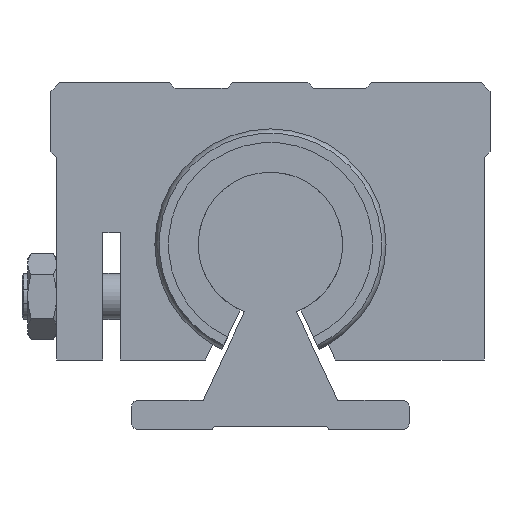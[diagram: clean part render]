
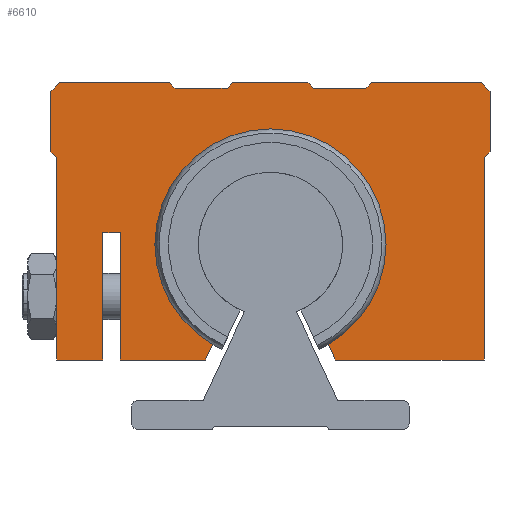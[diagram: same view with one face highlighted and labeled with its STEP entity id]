
A CAD part, left-side view. The second image highlights one B-rep face of the part: STEP entity #6610.
In plain terms, the highlighted planar face has unit normal (-1, 0, 0).
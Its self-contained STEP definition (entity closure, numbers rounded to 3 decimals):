
#5363=CARTESIAN_POINT('',(267.205,-10.,14.679));
#5364=VERTEX_POINT('',#5363);
#5371=CARTESIAN_POINT('',(267.205,10.,14.679));
#5372=VERTEX_POINT('',#5371);
#5373=CARTESIAN_POINT('',(267.205,0.,32.0));
#5374=DIRECTION('',(-1.0,0.0,0.0));
#5375=DIRECTION('',(0.0,-1.0,0.0));
#5376=AXIS2_PLACEMENT_3D('',#5373,#5374,#5375);
#5377=CIRCLE('',#5376,20.0);
#5378=EDGE_CURVE('',#5364,#5372,#5377,.T.);
#5470=CARTESIAN_POINT('',(267.205,-6.5,60.0));
#5471=VERTEX_POINT('',#5470);
#5472=CARTESIAN_POINT('',(267.205,-7.5,59.));
#5473=VERTEX_POINT('',#5472);
#5474=CARTESIAN_POINT('',(267.205,-6.5,60.0));
#5475=DIRECTION('',(0.0,-0.707,-0.707));
#5476=VECTOR('',#5475,1.414);
#5477=LINE('',#5474,#5476);
#5478=EDGE_CURVE('',#5471,#5473,#5477,.T.);
#5511=CARTESIAN_POINT('',(267.205,-16.5,59.));
#5512=VERTEX_POINT('',#5511);
#5513=CARTESIAN_POINT('',(267.205,-7.5,59.));
#5514=DIRECTION('',(0.0,-1.0,0.0));
#5515=VECTOR('',#5514,9.);
#5516=LINE('',#5513,#5515);
#5517=EDGE_CURVE('',#5473,#5512,#5516,.T.);
#5541=CARTESIAN_POINT('',(267.205,17.5,60.0));
#5542=VERTEX_POINT('',#5541);
#5543=CARTESIAN_POINT('',(267.205,16.5,59.));
#5544=VERTEX_POINT('',#5543);
#5545=CARTESIAN_POINT('',(267.205,17.5,60.0));
#5546=DIRECTION('',(0.0,-0.707,-0.707));
#5547=VECTOR('',#5546,1.414);
#5548=LINE('',#5545,#5547);
#5549=EDGE_CURVE('',#5542,#5544,#5548,.T.);
#5582=CARTESIAN_POINT('',(267.205,7.5,59.));
#5583=VERTEX_POINT('',#5582);
#5584=CARTESIAN_POINT('',(267.205,16.5,59.));
#5585=DIRECTION('',(0.0,-1.0,0.0));
#5586=VECTOR('',#5585,9.);
#5587=LINE('',#5584,#5586);
#5588=EDGE_CURVE('',#5544,#5583,#5587,.T.);
#5612=CARTESIAN_POINT('',(267.205,6.5,60.0));
#5613=VERTEX_POINT('',#5612);
#5614=CARTESIAN_POINT('',(267.205,7.5,59.));
#5615=DIRECTION('',(0.0,-0.707,0.707));
#5616=VECTOR('',#5615,1.414);
#5617=LINE('',#5614,#5616);
#5618=EDGE_CURVE('',#5583,#5613,#5617,.T.);
#5643=CARTESIAN_POINT('',(267.205,-17.5,60.0));
#5644=VERTEX_POINT('',#5643);
#5645=CARTESIAN_POINT('',(267.205,-16.5,59.));
#5646=DIRECTION('',(0.0,-0.707,0.707));
#5647=VECTOR('',#5646,1.414);
#5648=LINE('',#5645,#5647);
#5649=EDGE_CURVE('',#5512,#5644,#5648,.T.);
#5674=CARTESIAN_POINT('',(267.205,37.0,47.0));
#5675=VERTEX_POINT('',#5674);
#5676=CARTESIAN_POINT('',(267.205,38.0,48.));
#5677=VERTEX_POINT('',#5676);
#5678=CARTESIAN_POINT('',(267.205,37.0,47.0));
#5679=DIRECTION('',(0.0,0.707,0.707));
#5680=VECTOR('',#5679,1.414);
#5681=LINE('',#5678,#5680);
#5682=EDGE_CURVE('',#5675,#5677,#5681,.T.);
#5714=CARTESIAN_POINT('',(267.205,-38.0,48.));
#5715=VERTEX_POINT('',#5714);
#5716=CARTESIAN_POINT('',(267.205,-37.0,47.0));
#5717=VERTEX_POINT('',#5716);
#5718=CARTESIAN_POINT('',(267.205,-38.0,48.));
#5719=DIRECTION('',(0.0,0.707,-0.707));
#5720=VECTOR('',#5719,1.414);
#5721=LINE('',#5718,#5720);
#5722=EDGE_CURVE('',#5715,#5717,#5721,.T.);
#5755=CARTESIAN_POINT('',(267.205,-37.,12.));
#5756=VERTEX_POINT('',#5755);
#5757=CARTESIAN_POINT('',(267.205,-37.0,47.0));
#5758=DIRECTION('',(0.0,0.0,-1.0));
#5759=VECTOR('',#5758,35.);
#5760=LINE('',#5757,#5759);
#5761=EDGE_CURVE('',#5717,#5756,#5760,.T.);
#5795=CARTESIAN_POINT('',(267.205,38.0,58.5));
#5796=VERTEX_POINT('',#5795);
#5803=CARTESIAN_POINT('',(267.205,36.5,60.0));
#5804=VERTEX_POINT('',#5803);
#5805=CARTESIAN_POINT('',(267.205,38.0,58.5));
#5806=DIRECTION('',(0.0,-0.707,0.707));
#5807=VECTOR('',#5806,2.121);
#5808=LINE('',#5805,#5807);
#5809=EDGE_CURVE('',#5796,#5804,#5808,.T.);
#5833=CARTESIAN_POINT('',(267.205,38.0,48.));
#5834=DIRECTION('',(0.0,0.0,1.0));
#5835=VECTOR('',#5834,10.5);
#5836=LINE('',#5833,#5835);
#5837=EDGE_CURVE('',#5677,#5796,#5836,.T.);
#5970=CARTESIAN_POINT('',(267.205,-36.5,60.0));
#5971=VERTEX_POINT('',#5970);
#5978=CARTESIAN_POINT('',(267.205,-38.0,58.5));
#5979=VERTEX_POINT('',#5978);
#5980=CARTESIAN_POINT('',(267.205,-36.5,60.0));
#5981=DIRECTION('',(0.0,-0.707,-0.707));
#5982=VECTOR('',#5981,2.121);
#5983=LINE('',#5980,#5982);
#5984=EDGE_CURVE('',#5971,#5979,#5983,.T.);
#6003=CARTESIAN_POINT('',(267.205,-17.5,60.0));
#6004=DIRECTION('',(0.0,-1.0,0.0));
#6005=VECTOR('',#6004,19.);
#6006=LINE('',#6003,#6005);
#6007=EDGE_CURVE('',#5644,#5971,#6006,.T.);
#6341=CARTESIAN_POINT('',(267.205,37.0,12.));
#6342=VERTEX_POINT('',#6341);
#6349=CARTESIAN_POINT('',(267.205,37.0,12.));
#6350=DIRECTION('',(0.0,0.0,1.0));
#6351=VECTOR('',#6350,35.);
#6352=LINE('',#6349,#6351);
#6353=EDGE_CURVE('',#6342,#5675,#6352,.T.);
#6372=CARTESIAN_POINT('',(267.205,29.,12.));
#6373=VERTEX_POINT('',#6372);
#6380=CARTESIAN_POINT('',(267.205,29.,12.));
#6381=DIRECTION('',(0.0,1.0,0.0));
#6382=VECTOR('',#6381,8.);
#6383=LINE('',#6380,#6382);
#6384=EDGE_CURVE('',#6373,#6342,#6383,.T.);
#6396=CARTESIAN_POINT('',(267.205,29.,34.));
#6397=VERTEX_POINT('',#6396);
#6404=CARTESIAN_POINT('',(267.205,29.,34.));
#6405=DIRECTION('',(0.0,0.0,-1.0));
#6406=VECTOR('',#6405,22.);
#6407=LINE('',#6404,#6406);
#6408=EDGE_CURVE('',#6397,#6373,#6407,.T.);
#6423=CARTESIAN_POINT('',(267.205,26.,34.));
#6424=VERTEX_POINT('',#6423);
#6431=CARTESIAN_POINT('',(267.205,26.,34.));
#6432=DIRECTION('',(0.0,1.0,0.0));
#6433=VECTOR('',#6432,3.);
#6434=LINE('',#6431,#6433);
#6435=EDGE_CURVE('',#6424,#6397,#6434,.T.);
#6447=CARTESIAN_POINT('',(267.205,26.,12.));
#6448=VERTEX_POINT('',#6447);
#6455=CARTESIAN_POINT('',(267.205,26.,12.));
#6456=DIRECTION('',(0.0,0.0,1.0));
#6457=VECTOR('',#6456,22.);
#6458=LINE('',#6455,#6457);
#6459=EDGE_CURVE('',#6448,#6424,#6458,.T.);
#6474=CARTESIAN_POINT('',(267.205,11.249,12.));
#6475=VERTEX_POINT('',#6474);
#6482=CARTESIAN_POINT('',(267.205,11.249,12.));
#6483=DIRECTION('',(0.0,1.0,0.0));
#6484=VECTOR('',#6483,14.751);
#6485=LINE('',#6482,#6484);
#6486=EDGE_CURVE('',#6475,#6448,#6485,.T.);
#6505=CARTESIAN_POINT('',(267.205,10.,14.679));
#6506=DIRECTION('',(0.0,0.423,-0.906));
#6507=VECTOR('',#6506,2.956);
#6508=LINE('',#6505,#6507);
#6509=EDGE_CURVE('',#5372,#6475,#6508,.T.);
#6521=CARTESIAN_POINT('',(267.205,-11.249,12.));
#6522=VERTEX_POINT('',#6521);
#6529=CARTESIAN_POINT('',(267.205,-11.249,12.));
#6530=DIRECTION('',(0.0,0.423,0.906));
#6531=VECTOR('',#6530,2.956);
#6532=LINE('',#6529,#6531);
#6533=EDGE_CURVE('',#6522,#5364,#6532,.T.);
#6552=CARTESIAN_POINT('',(267.205,-37.,12.));
#6553=DIRECTION('',(0.0,1.0,0.0));
#6554=VECTOR('',#6553,25.751);
#6555=LINE('',#6552,#6554);
#6556=EDGE_CURVE('',#5756,#6522,#6555,.T.);
#6562=CARTESIAN_POINT('',(267.205,3.2,34.996));
#6563=DIRECTION('',(1.0,0.0,0.0));
#6564=DIRECTION('',(0.0,0.0,-1.0));
#6565=AXIS2_PLACEMENT_3D('',#6562,#6563,#6564);
#6566=PLANE('',#6565);
#6567=ORIENTED_EDGE('',*,*,#5809,.F.);
#6568=ORIENTED_EDGE('',*,*,#5837,.F.);
#6569=ORIENTED_EDGE('',*,*,#5682,.F.);
#6570=ORIENTED_EDGE('',*,*,#6353,.F.);
#6571=ORIENTED_EDGE('',*,*,#6384,.F.);
#6572=ORIENTED_EDGE('',*,*,#6408,.F.);
#6573=ORIENTED_EDGE('',*,*,#6435,.F.);
#6574=ORIENTED_EDGE('',*,*,#6459,.F.);
#6575=ORIENTED_EDGE('',*,*,#6486,.F.);
#6576=ORIENTED_EDGE('',*,*,#6509,.F.);
#6577=ORIENTED_EDGE('',*,*,#5378,.F.);
#6578=ORIENTED_EDGE('',*,*,#6533,.F.);
#6579=ORIENTED_EDGE('',*,*,#6556,.F.);
#6580=ORIENTED_EDGE('',*,*,#5761,.F.);
#6581=ORIENTED_EDGE('',*,*,#5722,.F.);
#6582=CARTESIAN_POINT('',(267.205,-38.0,58.5));
#6583=DIRECTION('',(0.0,0.0,-1.0));
#6584=VECTOR('',#6583,10.5);
#6585=LINE('',#6582,#6584);
#6586=EDGE_CURVE('',#5979,#5715,#6585,.T.);
#6587=ORIENTED_EDGE('',*,*,#6586,.F.);
#6588=ORIENTED_EDGE('',*,*,#5984,.F.);
#6589=ORIENTED_EDGE('',*,*,#6007,.F.);
#6590=ORIENTED_EDGE('',*,*,#5649,.F.);
#6591=ORIENTED_EDGE('',*,*,#5517,.F.);
#6592=ORIENTED_EDGE('',*,*,#5478,.F.);
#6593=CARTESIAN_POINT('',(267.205,6.5,60.0));
#6594=DIRECTION('',(0.0,-1.0,0.0));
#6595=VECTOR('',#6594,13.0);
#6596=LINE('',#6593,#6595);
#6597=EDGE_CURVE('',#5613,#5471,#6596,.T.);
#6598=ORIENTED_EDGE('',*,*,#6597,.F.);
#6599=ORIENTED_EDGE('',*,*,#5618,.F.);
#6600=ORIENTED_EDGE('',*,*,#5588,.F.);
#6601=ORIENTED_EDGE('',*,*,#5549,.F.);
#6602=CARTESIAN_POINT('',(267.205,36.5,60.0));
#6603=DIRECTION('',(0.0,-1.0,0.0));
#6604=VECTOR('',#6603,19.);
#6605=LINE('',#6602,#6604);
#6606=EDGE_CURVE('',#5804,#5542,#6605,.T.);
#6607=ORIENTED_EDGE('',*,*,#6606,.F.);
#6608=EDGE_LOOP('',(#6567,#6568,#6569,#6570,#6571,#6572,#6573,#6574,#6575,#6576,#6577,#6578,#6579,#6580,#6581,#6587,#6588,#6589,#6590,#6591,#6592,#6598,#6599,#6600,#6601,#6607));
#6609=FACE_OUTER_BOUND('',#6608,.T.);
#6610=ADVANCED_FACE('',(#6609),#6566,.F.);
